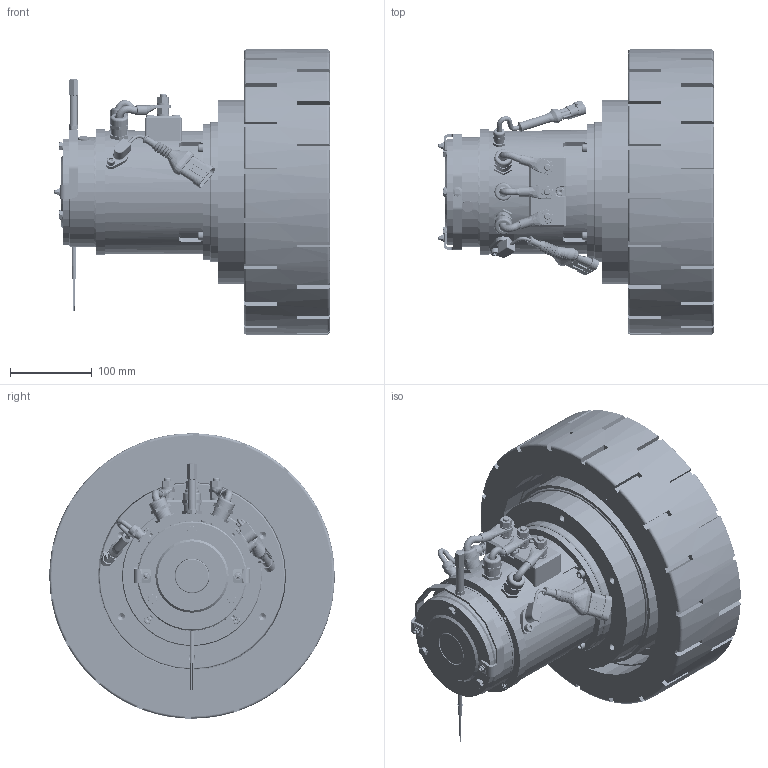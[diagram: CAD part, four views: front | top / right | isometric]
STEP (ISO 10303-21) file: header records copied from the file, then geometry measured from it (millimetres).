
FILE_DESCRIPTION(/* description */ (''),/* implementation_level */ '2;1');
FILE_NAME(/* name */ 'Z:\SITO WEB 2024\Dual Drive\MRH182\MRH182 AC D.350 mm\MRH182.AC.D350.stp',/* time_stamp */ '2024-03-07T14:36:33+01:00',/* author */ ('cad3'),/* organization */ (''),/* preprocessor_version */ 'ST-DEVELOPER v18.1',/* originating_system */ 'Autodesk Inventor 2022',/* authorisation */ '');
FILE_SCHEMA (('AUTOMOTIVE_DESIGN { 1 0 10303 214 3 1 1 }'));
Products named in the file (1): MRH182.AC.D350
Bounding box: 337.63 x 349.99 x 349.99 mm (x, y, z)
Volume: 10081414.6 mm3; surface area: 1202659.5 mm2
Topology: 10 solids, 52 shells, 4677 faces, 12361 edges, 7912 vertices
Faces by surface type: plane 3009, cylinder 774, cone 477, bspline 225, torus 188, sphere 4
Full cylindrical faces by diameter (mm): 0.5 x2, 1.5 x2, 4 x8, 4.134 x8, 4.3 x6, 4.5 x2, 4.625 x1, 4.917 x5, 5 x10, 5.2 x2, 5.3 x4, 5.4 x1, 5.5 x5, 5.637 x1, 6 x17, 6.2 x7, 6.3 x5, 6.4 x3, 6.5 x6, 6.647 x4, 7 x2, 7.5 x1, 8 x22, 8.1 x1, 8.2 x3, 8.3 x2, 8.4 x5, 8.5 x11, 8.75 x3, 8.88 x3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
Entity records: 182969 total; most frequent: CARTESIAN_POINT 62166, ORIENTED_EDGE 24668, DIRECTION 23831, EDGE_CURVE 12334, AXIS2_PLACEMENT_3D 8428, VERTEX_POINT 7919, LINE 6975, VECTOR 6975
